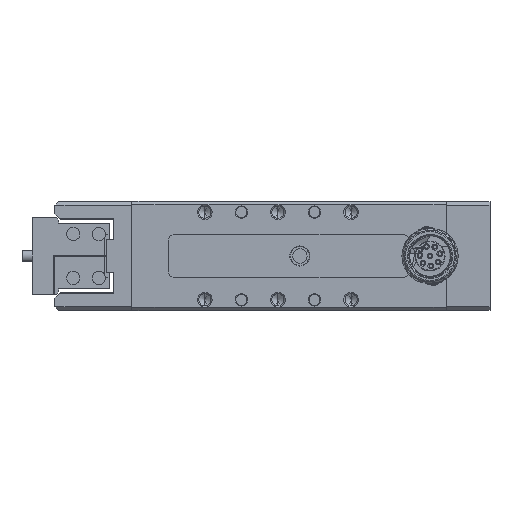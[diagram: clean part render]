
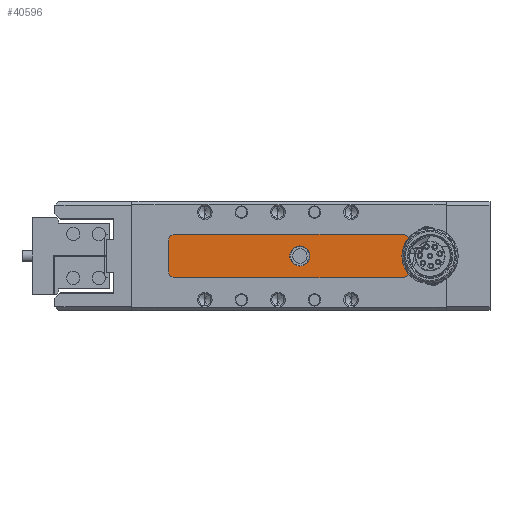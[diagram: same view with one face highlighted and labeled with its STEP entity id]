
A CAD part, left-side view. The second image highlights one B-rep face of the part: STEP entity #40596.
In plain terms, the highlighted planar face has unit normal (-1, 0, 0).
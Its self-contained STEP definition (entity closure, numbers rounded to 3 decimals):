
#1251 = CARTESIAN_POINT ( 'NONE',  ( -28.3, -21., -6. ) ) ;
#1612 = EDGE_CURVE ( 'NONE', #51262, #57994, #15851, .T. ) ;
#2518 = DIRECTION ( 'NONE',  ( 0., 0., -1. ) ) ;
#2521 = AXIS2_PLACEMENT_3D ( 'NONE', #35957, #12806, #53427 ) ;
#2531 = CARTESIAN_POINT ( 'NONE',  ( -28.3, -19., -4. ) ) ;
#2794 = VECTOR ( 'NONE', #22588, 1000. ) ;
#3778 = ORIENTED_EDGE ( 'NONE', *, *, #32430, .T. ) ;
#7862 = DIRECTION ( 'NONE',  ( -1., 0., 0. ) ) ;
#9486 = DIRECTION ( 'NONE',  ( 1., 0., 0. ) ) ;
#10013 = VECTOR ( 'NONE', #50645, 1000. ) ;
#11886 = EDGE_LOOP ( 'NONE', ( #37855, #72449, #74495, #66983, #33178, #68328, #38276, #29221 ) ) ;
#12515 = AXIS2_PLACEMENT_3D ( 'NONE', #35433, #22212, #52129 ) ;
#12806 = DIRECTION ( 'NONE',  ( -1., 0., 0. ) ) ;
#14417 = CIRCLE ( 'NONE', #55659, 2. ) ;
#15144 = DIRECTION ( 'NONE',  ( 0., 0., -1. ) ) ;
#15267 = EDGE_CURVE ( 'NONE', #29328, #48690, #24308, .T. ) ;
#15709 = LINE ( 'NONE', #27578, #10013 ) ;
#15851 = CIRCLE ( 'NONE', #2521, 2. ) ;
#16293 = DIRECTION ( 'NONE',  ( -1., 0., 0. ) ) ;
#16446 = PLANE ( 'NONE',  #12515 ) ;
#16551 = LINE ( 'NONE', #56389, #62925 ) ;
#16877 = VERTEX_POINT ( 'NONE', #61861 ) ;
#17071 = CARTESIAN_POINT ( 'NONE',  ( -28.3, -19., 4. ) ) ;
#17501 = VERTEX_POINT ( 'NONE', #21866 ) ;
#18014 = EDGE_CURVE ( 'NONE', #20287, #16877, #39052, .T. ) ;
#19443 = DIRECTION ( 'NONE',  ( 0., 0., 1. ) ) ;
#19658 = EDGE_LOOP ( 'NONE', ( #3778, #72347 ) ) ;
#20287 = VERTEX_POINT ( 'NONE', #34891 ) ;
#21052 = CARTESIAN_POINT ( 'NONE',  ( -28.3, -85., -6. ) ) ;
#21134 = CARTESIAN_POINT ( 'NONE',  ( -28.3, -85., -4. ) ) ;
#21866 = CARTESIAN_POINT ( 'NONE',  ( -28.3, -21., 6. ) ) ;
#22065 = CARTESIAN_POINT ( 'NONE',  ( -28.3, -19., -6. ) ) ;
#22212 = DIRECTION ( 'NONE',  ( -1., 0., 0. ) ) ;
#22301 = CARTESIAN_POINT ( 'NONE',  ( -28.3, -55., 2.75 ) ) ;
#22588 = DIRECTION ( 'NONE',  ( 0., 0., -1. ) ) ;
#23660 = EDGE_CURVE ( 'NONE', #33517, #44380, #14417, .T. ) ;
#23743 = FACE_OUTER_BOUND ( 'NONE', #11886, .T. ) ;
#24308 = CIRCLE ( 'NONE', #42382, 2.75 ) ;
#26202 = CIRCLE ( 'NONE', #62390, 2. ) ;
#27173 = LINE ( 'NONE', #21052, #2794 ) ;
#27544 = VECTOR ( 'NONE', #62913, 1000. ) ;
#27578 = CARTESIAN_POINT ( 'NONE',  ( -28.3, -85., -6. ) ) ;
#28226 = CARTESIAN_POINT ( 'NONE',  ( -28.3, -83., -6. ) ) ;
#28916 = CARTESIAN_POINT ( 'NONE',  ( -28.3, -55., -2.75 ) ) ;
#29221 = ORIENTED_EDGE ( 'NONE', *, *, #1612, .T. ) ;
#29274 = VERTEX_POINT ( 'NONE', #17071 ) ;
#29328 = VERTEX_POINT ( 'NONE', #28916 ) ;
#31294 = EDGE_CURVE ( 'NONE', #51262, #44380, #15709, .T. ) ;
#32430 = EDGE_CURVE ( 'NONE', #48690, #29328, #57688, .T. ) ;
#33178 = ORIENTED_EDGE ( 'NONE', *, *, #43526, .F. ) ;
#33517 = VERTEX_POINT ( 'NONE', #2531 ) ;
#34891 = CARTESIAN_POINT ( 'NONE',  ( -28.3, -85., 4. ) ) ;
#35433 = CARTESIAN_POINT ( 'NONE',  ( -28.3, -9., 0. ) ) ;
#35957 = CARTESIAN_POINT ( 'NONE',  ( -28.3, -83., -4. ) ) ;
#37855 = ORIENTED_EDGE ( 'NONE', *, *, #64459, .F. ) ;
#38276 = ORIENTED_EDGE ( 'NONE', *, *, #31294, .F. ) ;
#39052 = CIRCLE ( 'NONE', #42668, 2. ) ;
#40596 = ADVANCED_FACE ( 'NONE', ( #52909, #23743 ), #16446, .T. ) ;
#41875 = DIRECTION ( 'NONE',  ( 1., 0., 0. ) ) ;
#42382 = AXIS2_PLACEMENT_3D ( 'NONE', #61418, #9486, #19443 ) ;
#42609 = DIRECTION ( 'NONE',  ( -1., 0., 0. ) ) ;
#42668 = AXIS2_PLACEMENT_3D ( 'NONE', #59789, #7862, #2518 ) ;
#43448 = EDGE_CURVE ( 'NONE', #17501, #29274, #26202, .T. ) ;
#43526 = EDGE_CURVE ( 'NONE', #33517, #29274, #73934, .T. ) ;
#44380 = VERTEX_POINT ( 'NONE', #1251 ) ;
#47590 = CARTESIAN_POINT ( 'NONE',  ( -28.3, -21., 4. ) ) ;
#48690 = VERTEX_POINT ( 'NONE', #22301 ) ;
#49317 = CARTESIAN_POINT ( 'NONE',  ( -28.3, -21., -4. ) ) ;
#50645 = DIRECTION ( 'NONE',  ( 0., 1., 0. ) ) ;
#51106 = DIRECTION ( 'NONE',  ( 0., -1., 0. ) ) ;
#51262 = VERTEX_POINT ( 'NONE', #28226 ) ;
#52129 = DIRECTION ( 'NONE',  ( 0., -1., 0. ) ) ;
#52909 = FACE_BOUND ( 'NONE', #19658, .T. ) ;
#53427 = DIRECTION ( 'NONE',  ( 0., 0., -1. ) ) ;
#55659 = AXIS2_PLACEMENT_3D ( 'NONE', #49317, #16293, #15144 ) ;
#55699 = EDGE_CURVE ( 'NONE', #17501, #16877, #16551, .T. ) ;
#56389 = CARTESIAN_POINT ( 'NONE',  ( -28.3, -85., 6. ) ) ;
#57688 = CIRCLE ( 'NONE', #73380, 2.75 ) ;
#57994 = VERTEX_POINT ( 'NONE', #21134 ) ;
#59317 = DIRECTION ( 'NONE',  ( 0., 0., -1. ) ) ;
#59789 = CARTESIAN_POINT ( 'NONE',  ( -28.3, -83., 4. ) ) ;
#61418 = CARTESIAN_POINT ( 'NONE',  ( -28.3, -55., 0. ) ) ;
#61861 = CARTESIAN_POINT ( 'NONE',  ( -28.3, -83., 6. ) ) ;
#62390 = AXIS2_PLACEMENT_3D ( 'NONE', #47590, #42609, #59317 ) ;
#62913 = DIRECTION ( 'NONE',  ( 0., 0., 1. ) ) ;
#62925 = VECTOR ( 'NONE', #51106, 1000. ) ;
#64459 = EDGE_CURVE ( 'NONE', #20287, #57994, #27173, .T. ) ;
#64584 = CARTESIAN_POINT ( 'NONE',  ( -28.3, -55., 0. ) ) ;
#64954 = DIRECTION ( 'NONE',  ( 0., 0., 1. ) ) ;
#66983 = ORIENTED_EDGE ( 'NONE', *, *, #43448, .T. ) ;
#68328 = ORIENTED_EDGE ( 'NONE', *, *, #23660, .T. ) ;
#72347 = ORIENTED_EDGE ( 'NONE', *, *, #15267, .T. ) ;
#72449 = ORIENTED_EDGE ( 'NONE', *, *, #18014, .T. ) ;
#73380 = AXIS2_PLACEMENT_3D ( 'NONE', #64584, #41875, #64954 ) ;
#73934 = LINE ( 'NONE', #22065, #27544 ) ;
#74495 = ORIENTED_EDGE ( 'NONE', *, *, #55699, .F. ) ;
